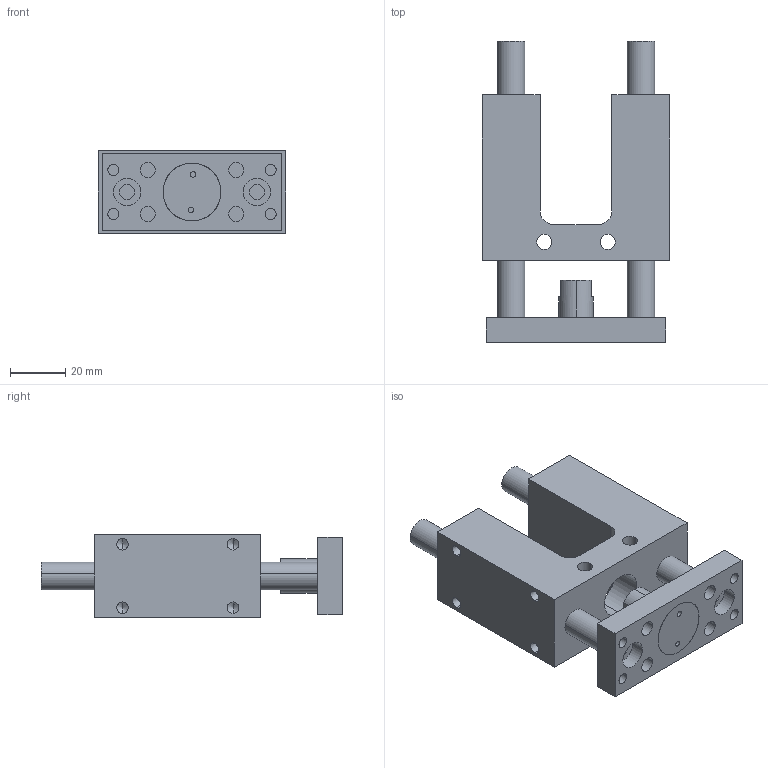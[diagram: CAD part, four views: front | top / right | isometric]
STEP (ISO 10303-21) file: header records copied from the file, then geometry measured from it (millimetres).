
FILE_DESCRIPTION (( 'STEP AP214' ), '1' );
FILE_NAME ('RYU_16.STEP', '2021-10-23T19:59:41', ( '' ), ( '' ), 'SwSTEP 2.0', 'SolidWorks 2021', '' );
FILE_SCHEMA (( 'AUTOMOTIVE_DESIGN' ));
Length unit declared in the file: millimetre
Products named in the file (6): RYU_16_FLANS; RYU_16; GÖVDE; RYU_16_10_K_MIL; RYU_16_SOMUN; RYU_16_PART_2
Assembly tree (6 placements, depth 2):
  RYU_16
    GÖVDE
    RYU_16_FLANS
    RYU_16_10_K_MIL  x2
    RYU_16_SOMUN
    RYU_16_PART_2
Bounding box: 68 x 109 x 30 mm (x, y, z)
Volume: 101216.8 mm3; surface area: 37883.7 mm2
Topology: 6 solids, 6 shells, 143 faces, 342 edges, 214 vertices
Faces by surface type: cylinder 84, plane 41, cone 18
Entity records: 4582 total; most frequent: DIRECTION 782, CARTESIAN_POINT 726, ORIENTED_EDGE 640, EDGE_CURVE 320, AXIS2_PLACEMENT_3D 318, VERTEX_POINT 210, EDGE_LOOP 192, CIRCLE 170
